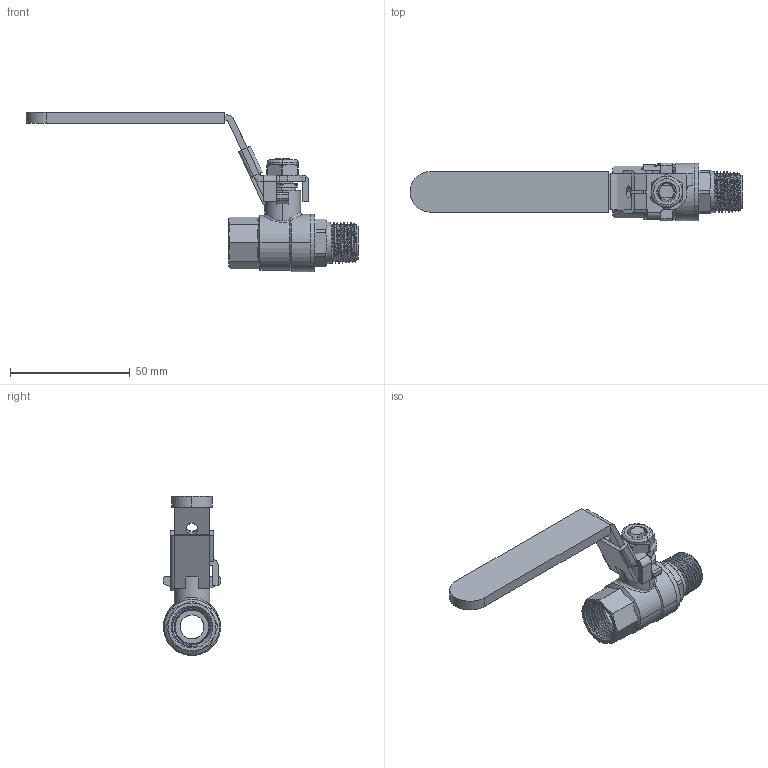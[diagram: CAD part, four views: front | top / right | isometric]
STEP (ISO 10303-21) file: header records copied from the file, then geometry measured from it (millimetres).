
FILE_DESCRIPTION(('Open CASCADE Model'),'2;1');
FILE_NAME('Open CASCADE Shape Model','2021-12-13T10:53:29',('Author'),( 'Open CASCADE'),'Open CASCADE STEP processor 7.3','Open CASCADE 7.3' ,'Unknown');
FILE_SCHEMA(('AUTOMOTIVE_DESIGN { 1 0 10303 214 1 1 1 1 }'));
Length unit declared in the file: millimetre
Products named in the file (13): Open CASCADE STEP translator 7.3 1; Open CASCADE STEP translator 7.3 1.1; Open CASCADE STEP translator 7.3 1.2; Open CASCADE STEP translator 7.3 1.3; Open CASCADE STEP translator 7.3 1.4; Open CASCADE STEP translator 7.3 1.5; Open CASCADE STEP translator 7.3 1.6; Open CASCADE STEP translator 7.3 1.7; Open CASCADE STEP translator 7.3 1.8; Open CASCADE STEP translator 7.3 1.9; Open CASCADE STEP translator 7.3 1.10; Open CASCADE STEP translator 7.3 1.11; Open CASCADE STEP translator 7.3 1.12
Assembly tree (12 placements, depth 2):
  Open CASCADE STEP translator 7.3 1
    Open CASCADE STEP translator 7.3 1.1
    Open CASCADE STEP translator 7.3 1.2
    Open CASCADE STEP translator 7.3 1.3
    Open CASCADE STEP translator 7.3 1.4
    Open CASCADE STEP translator 7.3 1.5
    Open CASCADE STEP translator 7.3 1.6
    Open CASCADE STEP translator 7.3 1.7
    Open CASCADE STEP translator 7.3 1.8
    Open CASCADE STEP translator 7.3 1.9
    Open CASCADE STEP translator 7.3 1.10
    Open CASCADE STEP translator 7.3 1.11
    Open CASCADE STEP translator 7.3 1.12
Bounding box: 138.83 x 24 x 66.58 mm (x, y, z)
Volume: 23957 mm3; surface area: 21695.4 mm2
Topology: 12 solids, 12 shells, 623 faces, 1636 edges, 1063 vertices
Faces by surface type: cylinder 181, plane 168, bspline 153, cone 103, torus 16, sphere 2
Entity records: 119800 total; most frequent: CARTESIAN_POINT 91418, DIRECTION 3863, ORIENTED_EDGE 3268, PCURVE 3268, DEFINITIONAL_REPRESENTATION 3268, B_SPLINE_CURVE_WITH_KNOTS 2093, LINE 2040, VECTOR 2040
